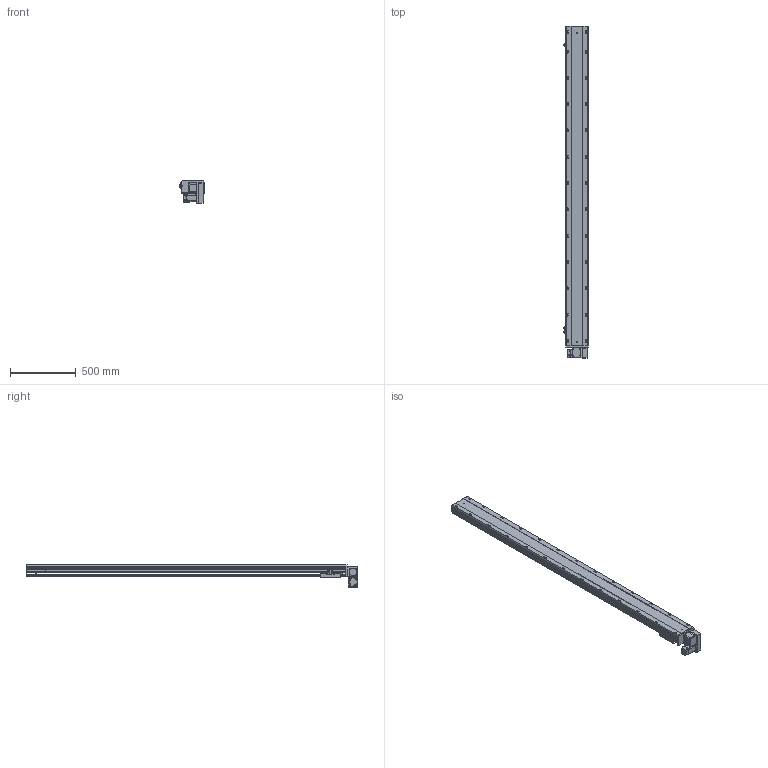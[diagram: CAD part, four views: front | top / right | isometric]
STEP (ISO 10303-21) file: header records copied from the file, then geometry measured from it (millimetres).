
FILE_DESCRIPTION (( 'STEP AP203' ), '1' );
FILE_NAME ('BTB17-L40-2150-LU-M40-C4.STEP', '2022-07-20T06:19:04', ( 'CXY' ), ( 'BT' ), 'SwSTEP 2.0', 'SolidWorks 2016', '' );
FILE_SCHEMA (( 'CONFIG_CONTROL_DESIGN' ));
Length unit declared in the file: millimetre
Products named in the file (11): BTB17-L-HZ; BTB17-L-菁釱_XD; BTB17-L-23; FS-08-T40; FS-07-T40(1); BTB17-L-01; BTB17-L-04; M40; BTB17-L40-2150-LU-M40-C4; BTB17-L-06; BTB17-L-24
Assembly tree (13 placements, depth 2):
  BTB17-L40-2150-LU-M40-C4
    BTB17-L-菁釱_XD
    BTB17-L-01
    BTB17-L-04  x3
    BTB17-L-06
    BTB17-L-23  x2
    BTB17-L-24
    BTB17-L-HZ
    FS-07-T40(1)
    FS-08-T40
    M40
Bounding box: 183.7 x 2523.5 x 171.5 mm (x, y, z)
Volume: 21156124.2 mm3; surface area: 2737050.7 mm2
Topology: 22 solids, 22 shells, 1723 faces, 4515 edges, 2852 vertices
Faces by surface type: plane 919, cylinder 596, cone 176, torus 16, bspline 16
Entity records: 45094 total; most frequent: CARTESIAN_POINT 8758, DIRECTION 7453, ORIENTED_EDGE 7134, EDGE_CURVE 3567, AXIS2_PLACEMENT_3D 2569, VERTEX_POINT 2320, VECTOR 2315, LINE 2315
